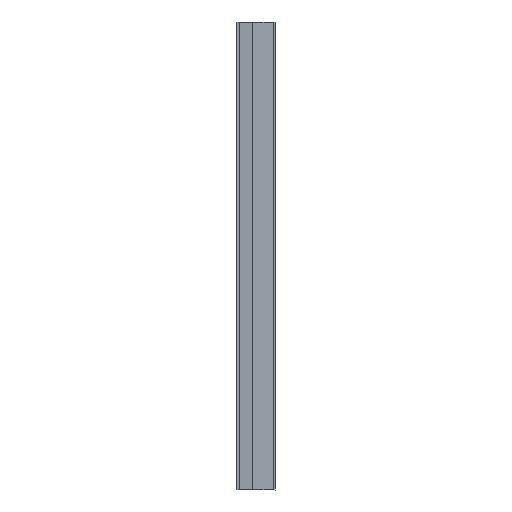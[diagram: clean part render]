
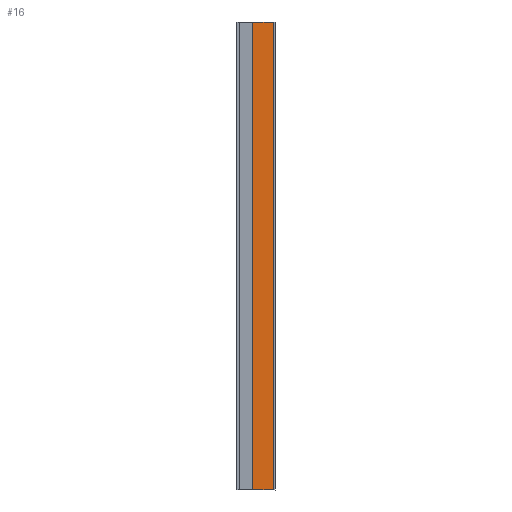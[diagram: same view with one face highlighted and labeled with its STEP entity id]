
A CAD part, top view. The second image highlights one B-rep face of the part: STEP entity #16.
In plain terms, the highlighted free-form (B-spline) face has degree [1, 1] with [2, 2] control points.
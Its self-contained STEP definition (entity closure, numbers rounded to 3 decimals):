
#16=ADVANCED_FACE('',(#22),#106,.T.);
#22=FACE_OUTER_BOUND('',#28,.T.);
#28=EDGE_LOOP('',(#40,#41,#42,#43));
#40=ORIENTED_EDGE('',*,*,#64,.T.);
#41=ORIENTED_EDGE('',*,*,#65,.T.);
#42=ORIENTED_EDGE('',*,*,#60,.T.);
#43=ORIENTED_EDGE('',*,*,#66,.T.);
#60=EDGE_CURVE('',#96,#97,#78,.T.);
#64=EDGE_CURVE('',#100,#101,#82,.T.);
#65=EDGE_CURVE('',#101,#96,#83,.T.);
#66=EDGE_CURVE('',#97,#100,#84,.T.);
#78=B_SPLINE_CURVE_WITH_KNOTS('',1,(#268,#269),.UNSPECIFIED.,.F.,.F.,(2,
2),(0.,1019.989),.UNSPECIFIED.);
#82=B_SPLINE_CURVE_WITH_KNOTS('',1,(#280,#281),.UNSPECIFIED.,.F.,.F.,(2,
2),(0.,1019.989),.UNSPECIFIED.);
#83=B_SPLINE_CURVE_WITH_KNOTS('',1,(#282,#283),.UNSPECIFIED.,.F.,.F.,(2,
2),(-154.991,-109.444),.UNSPECIFIED.);
#84=B_SPLINE_CURVE_WITH_KNOTS('',1,(#284,#285),.UNSPECIFIED.,.F.,.F.,(2,
2),(109.444,154.991),.UNSPECIFIED.);
#96=VERTEX_POINT('',#248);
#97=VERTEX_POINT('',#249);
#100=VERTEX_POINT('',#252);
#101=VERTEX_POINT('',#253);
#106=B_SPLINE_SURFACE_WITH_KNOTS('',1,1,((#220,#221),(#222,#223)),
 .UNSPECIFIED.,.F.,.F.,.F.,(2,2),(2,2),(0.,1019.989),(-154.991,
-109.444),.UNSPECIFIED.);
#220=CARTESIAN_POINT('',(66353.407,16162.988,-2000.));
#221=CARTESIAN_POINT('',(66398.954,16162.995,-2000.));
#222=CARTESIAN_POINT('',(66353.407,15143.012,-2000.));
#223=CARTESIAN_POINT('',(66398.954,15143.005,-2000.));
#248=CARTESIAN_POINT('',(66398.954,15143.005,-2000.));
#249=CARTESIAN_POINT('',(66398.954,16162.995,-2000.));
#252=CARTESIAN_POINT('',(66353.407,16162.988,-2000.));
#253=CARTESIAN_POINT('',(66353.407,15143.012,-2000.));
#268=CARTESIAN_POINT('',(66398.954,15143.005,-2000.));
#269=CARTESIAN_POINT('',(66398.954,16162.995,-2000.));
#280=CARTESIAN_POINT('',(66353.407,16162.988,-2000.));
#281=CARTESIAN_POINT('',(66353.407,15143.012,-2000.));
#282=CARTESIAN_POINT('',(66353.407,15143.012,-2000.));
#283=CARTESIAN_POINT('',(66398.954,15143.005,-2000.));
#284=CARTESIAN_POINT('',(66398.954,16162.995,-2000.));
#285=CARTESIAN_POINT('',(66353.407,16162.988,-2000.));
